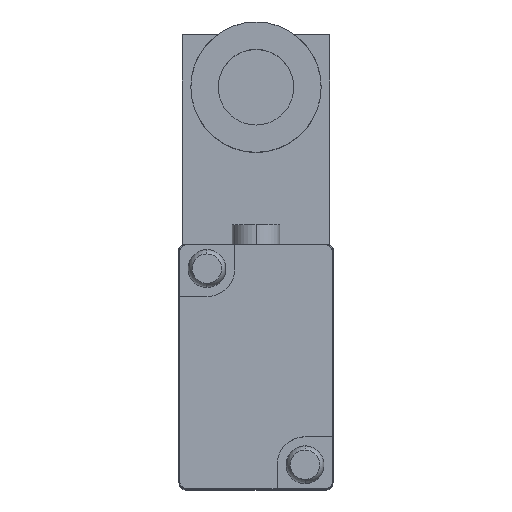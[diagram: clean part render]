
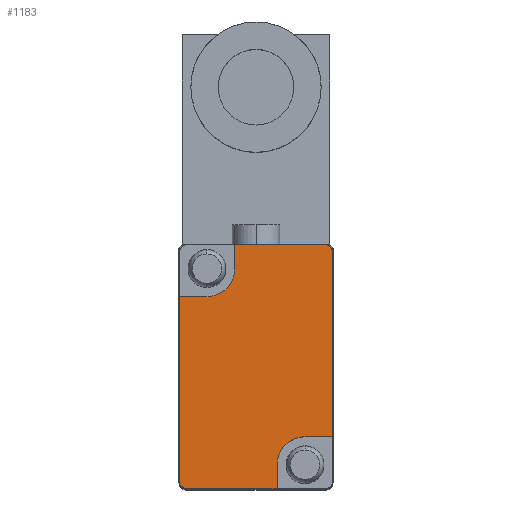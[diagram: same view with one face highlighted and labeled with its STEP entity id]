
A CAD part, top view. The second image highlights one B-rep face of the part: STEP entity #1183.
In plain terms, the highlighted planar face has unit normal (0, 0, 1).
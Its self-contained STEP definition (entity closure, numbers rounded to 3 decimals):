
#8 = VERTEX_POINT ( 'NONE', #1701 ) ;
#57 = CIRCLE ( 'NONE', #1700, 4. ) ;
#140 = CARTESIAN_POINT ( 'NONE',  ( -10.9, -16.4, 31.9 ) ) ;
#141 = EDGE_CURVE ( 'NONE', #1020, #1751, #2129, .T. ) ;
#154 = VERTEX_POINT ( 'NONE', #140 ) ;
#159 = DIRECTION ( 'NONE',  ( 0., -1., 0. ) ) ;
#173 = LINE ( 'NONE', #3743, #2474 ) ;
#187 = CARTESIAN_POINT ( 'NONE',  ( 9.9, 17.4, 31.9 ) ) ;
#270 = VERTEX_POINT ( 'NONE', #3766 ) ;
#351 = DIRECTION ( 'NONE',  ( -1., 0., 0. ) ) ;
#490 = VECTOR ( 'NONE', #1620, 1000. ) ;
#497 = LINE ( 'NONE', #2541, #2710 ) ;
#543 = VERTEX_POINT ( 'NONE', #3384 ) ;
#557 = CARTESIAN_POINT ( 'NONE',  ( -9.9, -16.4, 31.9 ) ) ;
#559 = ORIENTED_EDGE ( 'NONE', *, *, #141, .F. ) ;
#590 = ORIENTED_EDGE ( 'NONE', *, *, #3474, .F. ) ;
#627 = VERTEX_POINT ( 'NONE', #2104 ) ;
#662 = DIRECTION ( 'NONE',  ( 0., 1., 0. ) ) ;
#674 = EDGE_CURVE ( 'NONE', #1532, #1751, #497, .T. ) ;
#701 = DIRECTION ( 'NONE',  ( -1., 0., 0. ) ) ;
#877 = CARTESIAN_POINT ( 'NONE',  ( 3., -14., 31.9 ) ) ;
#930 = AXIS2_PLACEMENT_3D ( 'NONE', #939, #3610, #701 ) ;
#939 = CARTESIAN_POINT ( 'NONE',  ( 9.9, -16.4, 31.9 ) ) ;
#962 = CARTESIAN_POINT ( 'NONE',  ( -3., 14., 31.9 ) ) ;
#965 = CARTESIAN_POINT ( 'NONE',  ( 10.9, -16.4, 31.9 ) ) ;
#1020 = VERTEX_POINT ( 'NONE', #877 ) ;
#1028 = LINE ( 'NONE', #962, #2180 ) ;
#1059 = VERTEX_POINT ( 'NONE', #1174 ) ;
#1064 = DIRECTION ( 'NONE',  ( 0., -1., 0. ) ) ;
#1096 = ORIENTED_EDGE ( 'NONE', *, *, #3891, .F. ) ;
#1132 = DIRECTION ( 'NONE',  ( -1., 0., 0. ) ) ;
#1174 = CARTESIAN_POINT ( 'NONE',  ( 10.9, -10., 31.9 ) ) ;
#1183 = ADVANCED_FACE ( 'NONE', ( #1258 ), #2558, .T. ) ;
#1222 = CARTESIAN_POINT ( 'NONE',  ( 3., -17.4, 31.9 ) ) ;
#1230 = DIRECTION ( 'NONE',  ( 0., 0., 1. ) ) ;
#1258 = FACE_OUTER_BOUND ( 'NONE', #3112, .T. ) ;
#1315 = CARTESIAN_POINT ( 'NONE',  ( 9.9, -10., 31.9 ) ) ;
#1335 = VERTEX_POINT ( 'NONE', #187 ) ;
#1440 = VECTOR ( 'NONE', #159, 1000. ) ;
#1510 = ORIENTED_EDGE ( 'NONE', *, *, #3729, .T. ) ;
#1532 = VERTEX_POINT ( 'NONE', #2908 ) ;
#1567 = DIRECTION ( 'NONE',  ( 0., 0., 1. ) ) ;
#1620 = DIRECTION ( 'NONE',  ( -1., 0., 0. ) ) ;
#1683 = DIRECTION ( 'NONE',  ( 0., 0., 1. ) ) ;
#1690 = EDGE_CURVE ( 'NONE', #8, #154, #173, .T. ) ;
#1700 = AXIS2_PLACEMENT_3D ( 'NONE', #3886, #1683, #3590 ) ;
#1701 = CARTESIAN_POINT ( 'NONE',  ( -10.9, 10., 31.9 ) ) ;
#1715 = ORIENTED_EDGE ( 'NONE', *, *, #1858, .T. ) ;
#1751 = VERTEX_POINT ( 'NONE', #1222 ) ;
#1767 = VERTEX_POINT ( 'NONE', #3848 ) ;
#1844 = DIRECTION ( 'NONE',  ( 1., 0., 0. ) ) ;
#1858 = EDGE_CURVE ( 'NONE', #154, #1532, #3956, .T. ) ;
#1989 = LINE ( 'NONE', #965, #3737 ) ;
#2027 = DIRECTION ( 'NONE',  ( 0., 0., 1. ) ) ;
#2049 = AXIS2_PLACEMENT_3D ( 'NONE', #2754, #2027, #1132 ) ;
#2104 = CARTESIAN_POINT ( 'NONE',  ( -3., 17.4, 31.9 ) ) ;
#2129 = LINE ( 'NONE', #2484, #1440 ) ;
#2137 = AXIS2_PLACEMENT_3D ( 'NONE', #557, #1567, #3187 ) ;
#2171 = LINE ( 'NONE', #3451, #3651 ) ;
#2180 = VECTOR ( 'NONE', #3221, 1000. ) ;
#2217 = ORIENTED_EDGE ( 'NONE', *, *, #2752, .T. ) ;
#2312 = EDGE_CURVE ( 'NONE', #1059, #270, #1989, .T. ) ;
#2331 = ORIENTED_EDGE ( 'NONE', *, *, #674, .T. ) ;
#2347 = ORIENTED_EDGE ( 'NONE', *, *, #3414, .F. ) ;
#2411 = CARTESIAN_POINT ( 'NONE',  ( -3., 14., 31.9 ) ) ;
#2429 = ORIENTED_EDGE ( 'NONE', *, *, #3670, .F. ) ;
#2444 = ORIENTED_EDGE ( 'NONE', *, *, #2312, .T. ) ;
#2474 = VECTOR ( 'NONE', #1064, 1000. ) ;
#2484 = CARTESIAN_POINT ( 'NONE',  ( 3., -14., 31.9 ) ) ;
#2541 = CARTESIAN_POINT ( 'NONE',  ( -9.9, -17.4, 31.9 ) ) ;
#2558 = PLANE ( 'NONE',  #930 ) ;
#2650 = AXIS2_PLACEMENT_3D ( 'NONE', #4128, #1230, #3415 ) ;
#2710 = VECTOR ( 'NONE', #3824, 1000. ) ;
#2752 = EDGE_CURVE ( 'NONE', #1335, #627, #3220, .T. ) ;
#2754 = CARTESIAN_POINT ( 'NONE',  ( 7., -14., 31.9 ) ) ;
#2861 = ORIENTED_EDGE ( 'NONE', *, *, #3805, .F. ) ;
#2906 = VECTOR ( 'NONE', #351, 1000. ) ;
#2908 = CARTESIAN_POINT ( 'NONE',  ( -9.9, -17.4, 31.9 ) ) ;
#2974 = CARTESIAN_POINT ( 'NONE',  ( 9.9, 17.4, 31.9 ) ) ;
#3031 = ORIENTED_EDGE ( 'NONE', *, *, #1690, .T. ) ;
#3112 = EDGE_LOOP ( 'NONE', ( #590, #2347, #2861, #3031, #1715, #2331, #559, #2429, #1096, #2444, #1510, #2217 ) ) ;
#3173 = LINE ( 'NONE', #1315, #2906 ) ;
#3187 = DIRECTION ( 'NONE',  ( -1., 0., 0. ) ) ;
#3220 = LINE ( 'NONE', #2974, #490 ) ;
#3221 = DIRECTION ( 'NONE',  ( 0., 1., 0. ) ) ;
#3384 = CARTESIAN_POINT ( 'NONE',  ( -7., 10., 31.9 ) ) ;
#3414 = EDGE_CURVE ( 'NONE', #543, #4041, #57, .T. ) ;
#3415 = DIRECTION ( 'NONE',  ( -1., 0., 0. ) ) ;
#3451 = CARTESIAN_POINT ( 'NONE',  ( 9.9, 10., 31.9 ) ) ;
#3474 = EDGE_CURVE ( 'NONE', #4041, #627, #1028, .T. ) ;
#3590 = DIRECTION ( 'NONE',  ( -1., 0., 0. ) ) ;
#3610 = DIRECTION ( 'NONE',  ( 0., 0., 1. ) ) ;
#3651 = VECTOR ( 'NONE', #1844, 1000. ) ;
#3670 = EDGE_CURVE ( 'NONE', #1767, #1020, #3865, .T. ) ;
#3729 = EDGE_CURVE ( 'NONE', #270, #1335, #4053, .T. ) ;
#3737 = VECTOR ( 'NONE', #662, 1000. ) ;
#3743 = CARTESIAN_POINT ( 'NONE',  ( -10.9, 16.4, 31.9 ) ) ;
#3766 = CARTESIAN_POINT ( 'NONE',  ( 10.9, 16.4, 31.9 ) ) ;
#3805 = EDGE_CURVE ( 'NONE', #8, #543, #2171, .T. ) ;
#3824 = DIRECTION ( 'NONE',  ( 1., 0., 0. ) ) ;
#3848 = CARTESIAN_POINT ( 'NONE',  ( 7., -10., 31.9 ) ) ;
#3865 = CIRCLE ( 'NONE', #2049, 4. ) ;
#3886 = CARTESIAN_POINT ( 'NONE',  ( -7., 14., 31.9 ) ) ;
#3891 = EDGE_CURVE ( 'NONE', #1059, #1767, #3173, .T. ) ;
#3956 = CIRCLE ( 'NONE', #2137, 1. ) ;
#4041 = VERTEX_POINT ( 'NONE', #2411 ) ;
#4053 = CIRCLE ( 'NONE', #2650, 1. ) ;
#4128 = CARTESIAN_POINT ( 'NONE',  ( 9.9, 16.4, 31.9 ) ) ;
